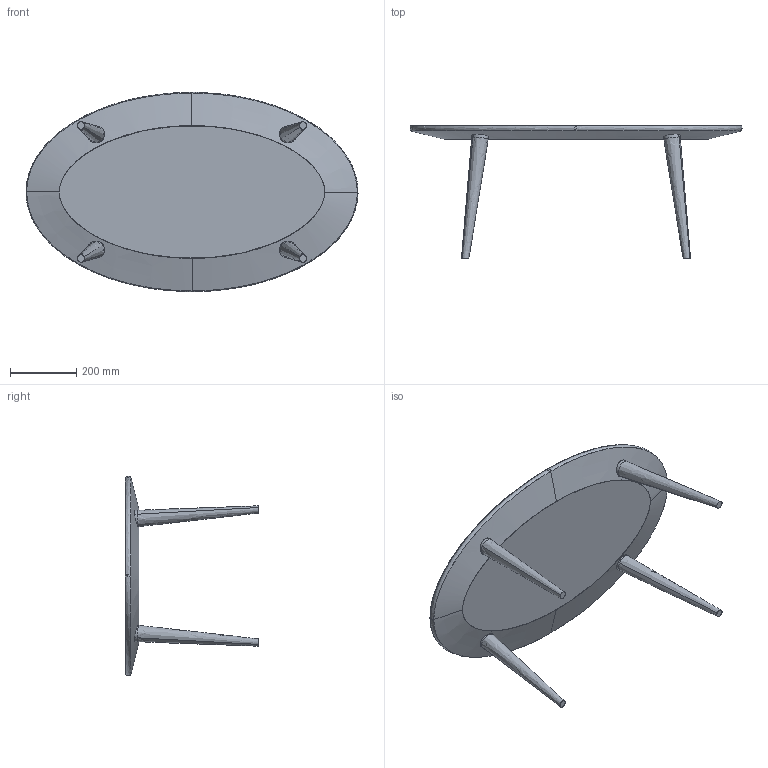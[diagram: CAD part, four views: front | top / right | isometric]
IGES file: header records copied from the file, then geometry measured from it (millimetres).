
Start section: SolidWorks IGES file using analytic representation for surfaces
Global section: file name: C:\Users\pedroamorim\Desktop\3Ds\More Contract\Mesas\Pluma\MC891\MC891 1000x600x400.IGS; native system: SolidWorks 2017; preprocessor: SolidWorks 2017; author: pedroamorim; date: 171013.145342; units: millimetre
Bounding box: 1000.49 x 401.24 x 600.54 mm (x, y, z)
Surface area: 2381983.9 mm2 (no closed solid volume)
Topology: 0 solids, 0 shells, 694 faces, 12786 edges, 12786 vertices
Faces by surface type: bspline 490, revolution 204
